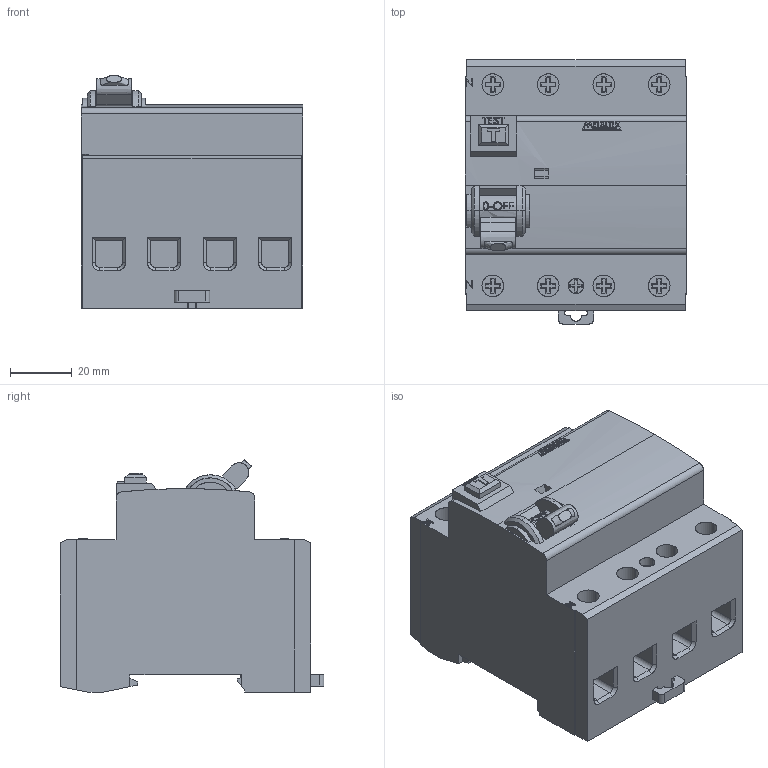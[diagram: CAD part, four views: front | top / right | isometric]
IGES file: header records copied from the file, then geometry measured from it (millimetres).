
Start section: SolidWorks IGES file using analytic representation for surfaces
Global section: file name: D:\X - Arquivos\PROEX\Empresas\P11 - METALTEX\01 - Produtos\IGES\4ª remessa\4ª etapa\DRA25-403.IGS; native system: SolidWorks 2012; preprocessor: SolidWorks 2012; author: Usuario; date: 180511.094654; units: millimetre
Bounding box: 72 x 85.6 x 75.36 mm (x, y, z)
Surface area: 37999.3 mm2 (no closed solid volume)
Topology: 0 solids, 0 shells, 605 faces, 4682 edges, 4682 vertices
Faces by surface type: bspline 517, revolution 88
